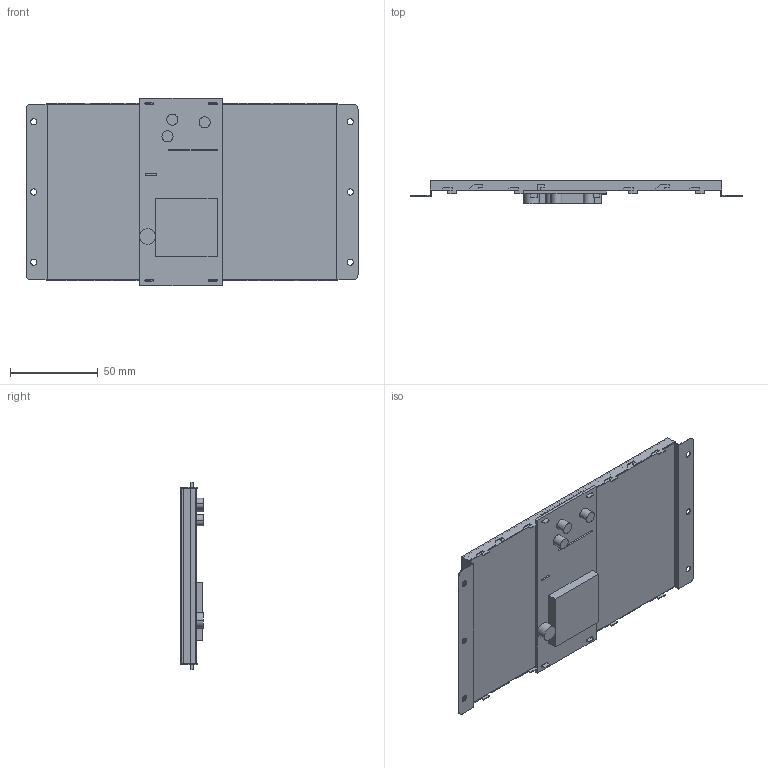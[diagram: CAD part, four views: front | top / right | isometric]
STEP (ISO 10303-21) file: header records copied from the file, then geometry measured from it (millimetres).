
FILE_DESCRIPTION((''),'2;1');
FILE_NAME('DMG80480L070-01WTR','2019-08-30T',('Administrator'),(''),'PRO/ENGINEER BY PARAMETRIC TECHNOLOGY CORPORATION, 2008380','PRO/ENGINEER BY PARAMETRIC TECHNOLOGY CORPORATION, 2008380','');
FILE_SCHEMA(('CONFIG_CONTROL_DESIGN'));
Length unit declared in the file: millimetre
Products named in the file (1): DMG80480L070-01WTR
Bounding box: 189.1 x 13.45 x 106.68 mm (x, y, z)
Volume: 99247.6 mm3; surface area: 89129.1 mm2
Topology: 1 solids, 2 shells, 239 faces, 702 edges, 464 vertices
Faces by surface type: plane 203, cylinder 36
Entity records: 7944 total; most frequent: CARTESIAN_POINT 1402, ORIENTED_EDGE 1396, DIRECTION 1264, EDGE_CURVE 698, VECTOR 620, LINE 620, VERTEX_POINT 460, AXIS2_PLACEMENT_3D 322
